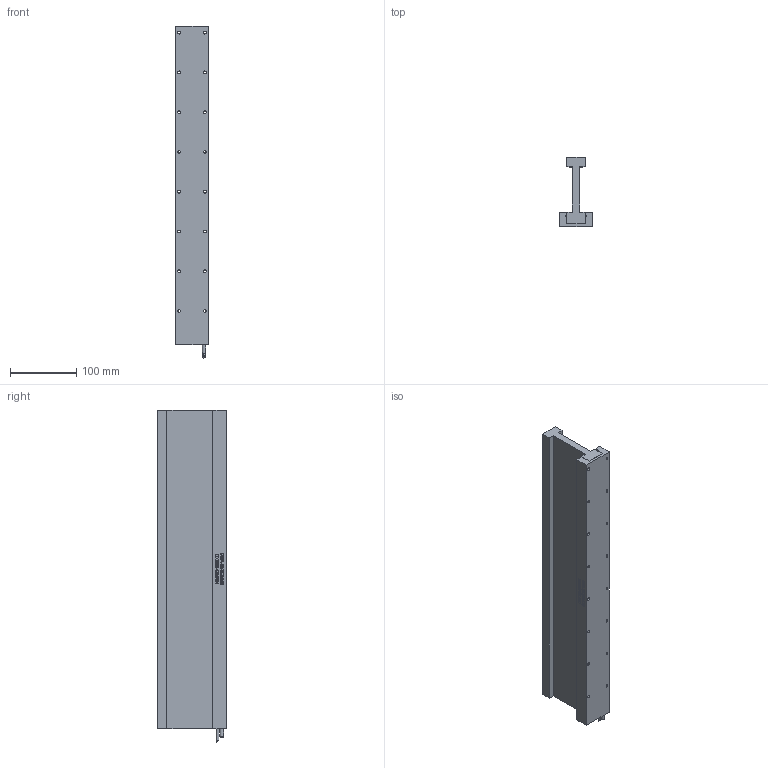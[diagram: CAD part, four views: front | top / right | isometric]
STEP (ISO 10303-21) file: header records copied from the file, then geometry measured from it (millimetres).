
FILE_DESCRIPTION (( 'STEP AP214' ), '1' );
FILE_NAME ('DX65B-C8-000.STEP', '2016-05-09T09:18:46', ( '' ), ( '' ), 'SwSTEP 2.0', 'SolidWorks 2015', '' );
FILE_SCHEMA (( 'AUTOMOTIVE_DESIGN' ));
Length unit declared in the file: millimetre
Products named in the file (5): CBL_MTR_PWR_SS_7C2C_SA (#2936-1); CBL_MTR_HALL_SS_5C_SA (#2935-1); DX65B-CX-002_C8; DX65B-C8-001_CUSTOMER C8; DX65B-C8-000
Assembly tree (4 placements, depth 2):
  DX65B-C8-000
    DX65B-C8-001_CUSTOMER C8
    DX65B-CX-002_C8
    CBL_MTR_HALL_SS_5C_SA (#2935-1)
    CBL_MTR_PWR_SS_7C2C_SA (#2936-1)
Bounding box: 49 x 104 x 501 mm (x, y, z)
Volume: 1033335 mm3; surface area: 229896.3 mm2
Topology: 4 solids, 4 shells, 716 faces, 1923 edges, 1282 vertices
Faces by surface type: plane 364, bspline 310, cylinder 42
Entity records: 39017 total; most frequent: CARTESIAN_POINT 22470, ORIENTED_EDGE 3846, DIRECTION 2209, EDGE_CURVE 1923, VERTEX_POINT 1282, LINE 1223, VECTOR 1223, EDGE_LOOP 815
